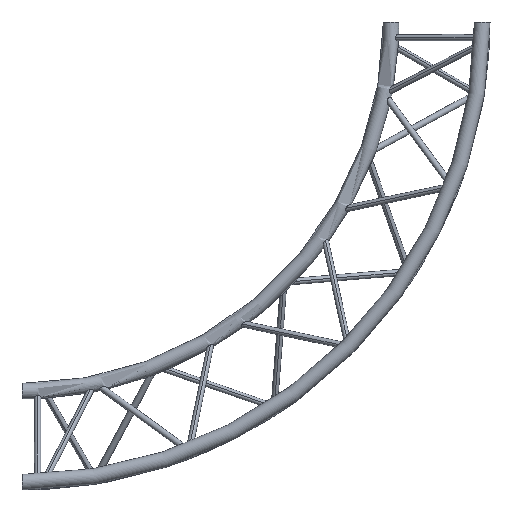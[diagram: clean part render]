
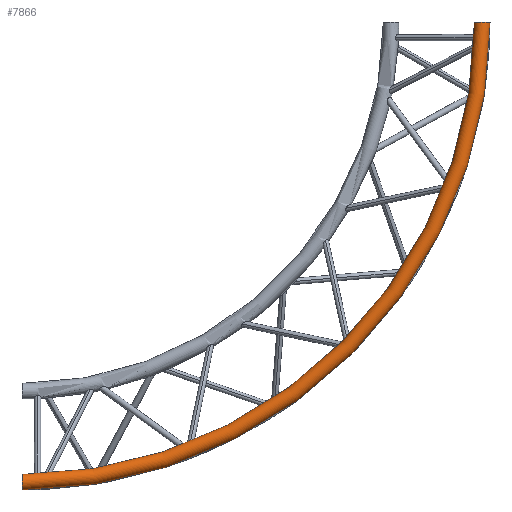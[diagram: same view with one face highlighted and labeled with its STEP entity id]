
A CAD part, front view. The second image highlights one B-rep face of the part: STEP entity #7866.
In plain terms, the highlighted toroidal (fillet/blend) face has major radius 1475 mm and minor radius 25 mm.
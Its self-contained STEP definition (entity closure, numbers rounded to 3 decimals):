
#5745 = DIRECTION ( 'NONE',  ( 1., 0., 0. ) ) ;
#5746 = CARTESIAN_POINT ( 'NONE',  ( 0., -168.5, -1475. ) ) ;
#5748 = AXIS2_PLACEMENT_3D ( 'NONE', #5746, #5745, #6063 ) ;
#5749 = CIRCLE ( 'NONE', #5748, 25. ) ;
#6063 = DIRECTION ( 'NONE',  ( 0., 0., -1. ) ) ;
#6372 = DIRECTION ( 'NONE',  ( 0., 0., -1. ) ) ;
#6373 = DIRECTION ( 'NONE',  ( 0., -1., 0. ) ) ;
#6374 = CARTESIAN_POINT ( 'NONE',  ( 0., -168.5, 0. ) ) ;
#6375 = AXIS2_PLACEMENT_3D ( 'NONE', #6374, #6373, #6372 ) ;
#6376 = TOROIDAL_SURFACE ( 'NONE', #6375, 1475., 25. ) ;
#6377 = FACE_OUTER_BOUND ( 'NONE', #7870, .T. ) ;
#6388 = CARTESIAN_POINT ( 'NONE',  ( 1450., -168.5, 0. ) ) ;
#6450 = DIRECTION ( 'NONE',  ( 0., 0., -1. ) ) ;
#6451 = DIRECTION ( 'NONE',  ( 0., -1., 0. ) ) ;
#6452 = CARTESIAN_POINT ( 'NONE',  ( 0., -168.5, 0. ) ) ;
#6453 = AXIS2_PLACEMENT_3D ( 'NONE', #6452, #6451, #6450 ) ;
#6454 = CIRCLE ( 'NONE', #6453, 1500. ) ;
#6455 = CARTESIAN_POINT ( 'NONE',  ( 0., -168.5, -1500. ) ) ;
#6456 = CARTESIAN_POINT ( 'NONE',  ( 1500., -168.5, 0. ) ) ;
#6457 = CARTESIAN_POINT ( 'NONE',  ( 0., -168.5, -1450. ) ) ;
#6458 = DIRECTION ( 'NONE',  ( 0., 0., -1. ) ) ;
#6459 = DIRECTION ( 'NONE',  ( 0., -1., 0. ) ) ;
#6460 = CARTESIAN_POINT ( 'NONE',  ( 0., -168.5, 0. ) ) ;
#6461 = AXIS2_PLACEMENT_3D ( 'NONE', #6460, #6459, #6458 ) ;
#6462 = CIRCLE ( 'NONE', #6461, 1450. ) ;
#6543 = CARTESIAN_POINT ( 'NONE',  ( 1475., -168.5, 0. ) ) ;
#6570 = DIRECTION ( 'NONE',  ( 1., 0., 0. ) ) ;
#6571 = DIRECTION ( 'NONE',  ( 0., 0., 1. ) ) ;
#6572 = AXIS2_PLACEMENT_3D ( 'NONE', #6543, #6571, #6570 ) ;
#6573 = CIRCLE ( 'NONE', #6572, 25. ) ;
#7856 = ORIENTED_EDGE ( 'NONE', *, *, #7895, .F. ) ;
#7860 = ORIENTED_EDGE ( 'NONE', *, *, #7885, .T. ) ;
#7866 = ADVANCED_FACE ( 'NONE', ( #6377 ), #6376, .T. ) ;
#7870 = EDGE_LOOP ( 'NONE', ( #7879, #7860, #7856, #7877 ) ) ;
#7877 = ORIENTED_EDGE ( 'NONE', *, *, #7893, .F. ) ;
#7878 = VERTEX_POINT ( 'NONE', #6388 ) ;
#7879 = ORIENTED_EDGE ( 'NONE', *, *, #7880, .T. ) ;
#7880 = EDGE_CURVE ( 'NONE', #7882, #7884, #5749, .T. ) ;
#7882 = VERTEX_POINT ( 'NONE', #6457 ) ;
#7883 = VERTEX_POINT ( 'NONE', #6456 ) ;
#7884 = VERTEX_POINT ( 'NONE', #6455 ) ;
#7885 = EDGE_CURVE ( 'NONE', #7884, #7883, #6454, .T. ) ;
#7893 = EDGE_CURVE ( 'NONE', #7882, #7878, #6462, .T. ) ;
#7895 = EDGE_CURVE ( 'NONE', #7878, #7883, #6573, .T. ) ;
